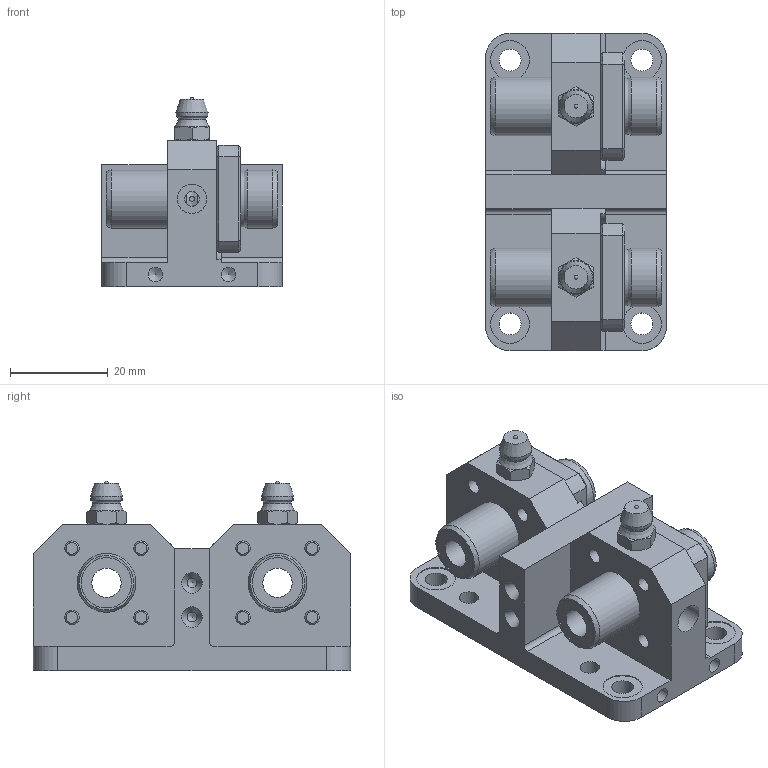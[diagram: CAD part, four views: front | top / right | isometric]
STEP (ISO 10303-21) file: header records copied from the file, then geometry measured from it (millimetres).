
FILE_DESCRIPTION((''),'2;1');
FILE_NAME('D:\製品 (図面)\カタログ用3D\リニアベアリング関連\STEP形式\LUFD\LUFD6.stp','2010-07-29T14:31:22',('Tsuchiya'),(''),'Autodesk Inventor 10','Autodesk Inventor 10','');
FILE_SCHEMA(('AUTOMOTIVE_DESIGN { 1 0 10303 214 1 1 1 1 }'));
Length unit declared in the file: millimetre
Products named in the file (4): LUFD6; LUFD61; LUFD62; LUFD63
Assembly tree (3 placements, depth 2):
  LUFD6
    LUFD61
    LUFD62
    LUFD63
Bounding box: 37 x 65 x 38.8 mm (x, y, z)
Volume: 36986.9 mm3; surface area: 21114.7 mm2
Topology: 13 solids, 13 shells, 382 faces, 858 edges, 542 vertices
Faces by surface type: plane 160, bspline 79, cylinder 71, cone 60, torus 8, sphere 4
Full cylindrical faces by diameter (mm): 3 x15, 4 x2, 4.5 x2, 5.5 x8, 6 x6, 8 x2, 10.3 x4, 12 x7
Entity records: 11704 total; most frequent: CARTESIAN_POINT 4270, DIRECTION 1422, ORIENTED_EDGE 1344, EDGE_CURVE 672, EDGE_LOOP 632, AXIS2_PLACEMENT_3D 588, VERTEX_POINT 502, FACE_OUTER_BOUND 382
